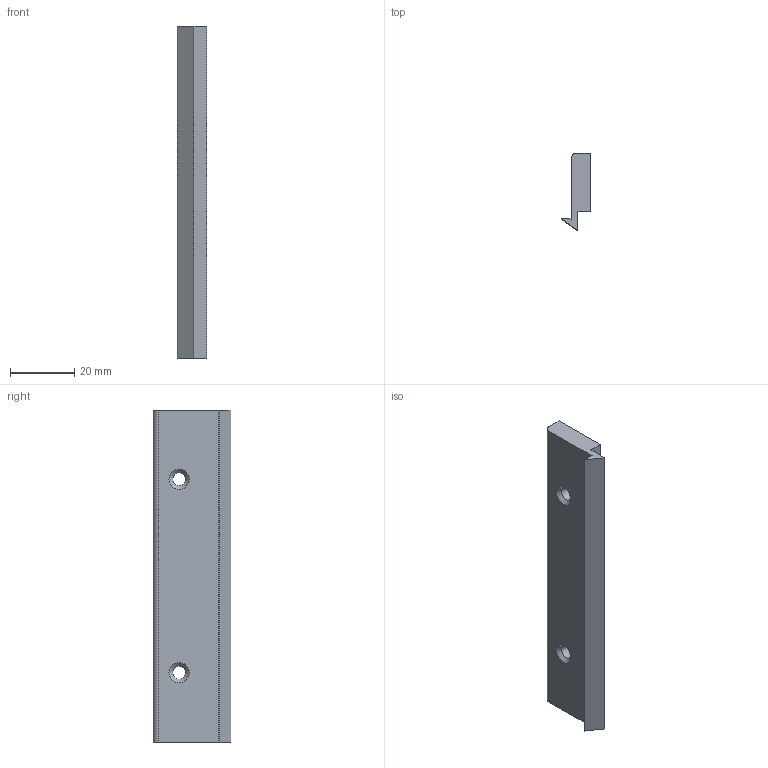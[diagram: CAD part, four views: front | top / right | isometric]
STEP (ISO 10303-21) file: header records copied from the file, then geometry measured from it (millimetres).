
FILE_DESCRIPTION (( 'STEP AP214' ), '1' );
FILE_NAME ('F31161A fixe.step', '2024-12-03T16:17:22', ( '' ), ( '' ), 'SwSTEP 2.0', 'SolidWorks 2023', '' );
FILE_SCHEMA (( 'AUTOMOTIVE_DESIGN' ));
Length unit declared in the file: millimetre
Products named in the file (1): F31161A fixe
Bounding box: 9.23 x 24 x 103 mm (x, y, z)
Volume: 12376 mm3; surface area: 6877.9 mm2
Topology: 1 solids, 1 shells, 15 faces, 37 edges, 24 vertices
Faces by surface type: plane 9, cylinder 4, cone 2
Full cylindrical faces by diameter (mm): 4 x2
Entity records: 456 total; most frequent: DIRECTION 75, CARTESIAN_POINT 73, ORIENTED_EDGE 66, EDGE_CURVE 33, AXIS2_PLACEMENT_3D 26, VERTEX_POINT 24, VECTOR 23, LINE 23
